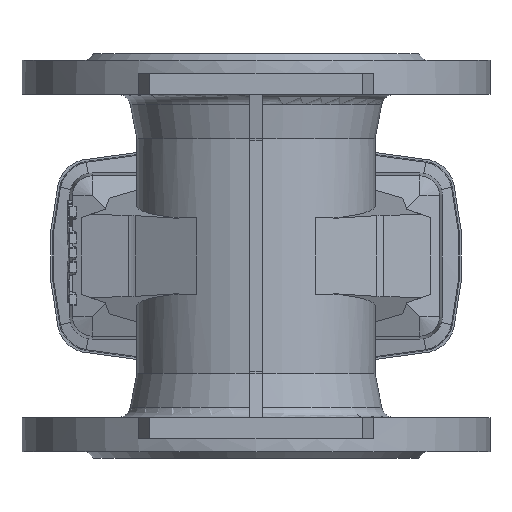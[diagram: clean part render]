
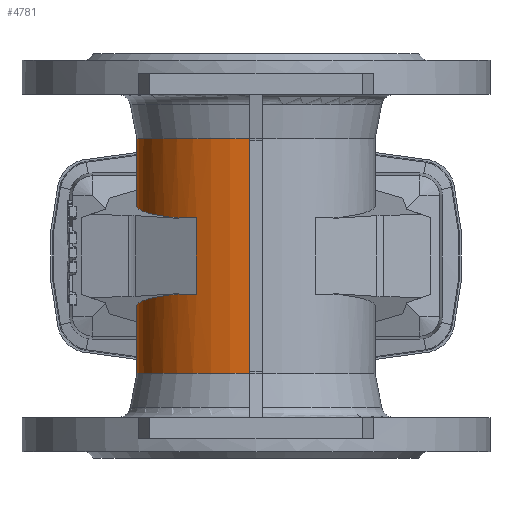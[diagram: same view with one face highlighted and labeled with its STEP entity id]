
A CAD part, front view. The second image highlights one B-rep face of the part: STEP entity #4781.
In plain terms, the highlighted cylindrical face has radius 56 mm (diameter 112 mm), a partial arc.
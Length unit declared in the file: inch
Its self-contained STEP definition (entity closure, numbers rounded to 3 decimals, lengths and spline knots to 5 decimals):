
#492 = CARTESIAN_POINT ( 'NONE',  ( -1.10236, -1.90935, 3.74016 ) ) ;
#493 = DIRECTION ( 'NONE',  ( 0., 0., -1. ) ) ;
#497 = CARTESIAN_POINT ( 'NONE',  ( -1.33426, -1.76057, -0.70506 ) ) ;
#501 = CARTESIAN_POINT ( 'NONE',  ( -1.43875, -1.67057, -0.70323 ) ) ;
#502 = CARTESIAN_POINT ( 'NONE',  ( -0.11811, 2.20156, -1.2707 ) ) ;
#503 = CARTESIAN_POINT ( 'NONE',  ( -2.45778, 2.07604, -1.21182 ) ) ;
#504 = CARTESIAN_POINT ( 'NONE',  ( -1.2218, -1.84039, -0.70702 ) ) ;
#505 = CARTESIAN_POINT ( 'NONE',  ( -1.10236, -1.90935, -0.7091 ) ) ;
#506 = CARTESIAN_POINT ( 'NONE',  ( -0.11811, -2.20156, 0. ) ) ;
#507 = CARTESIAN_POINT ( 'NONE',  ( -0.11811, 2.20156, 0. ) ) ;
#508 = DIRECTION ( 'NONE',  ( 0., 0., 1. ) ) ;
#509 = CARTESIAN_POINT ( 'NONE',  ( -3.21412, -0.14156, -0.88683 ) ) ;
#510 = CARTESIAN_POINT ( 'NONE',  ( -1.43875, -1.67057, -0.70323 ) ) ;
#511 = DIRECTION ( 'NONE',  ( 0., 0., -1. ) ) ;
#512 = DIRECTION ( 'NONE',  ( 0., 0., 1. ) ) ;
#513 = CARTESIAN_POINT ( 'NONE',  ( 0., 0., -2.17103 ) ) ;
#514 = DIRECTION ( 'NONE',  ( 0., 0., 1. ) ) ;
#515 = DIRECTION ( 'NONE',  ( 1., 0., 0. ) ) ;
#516 = CARTESIAN_POINT ( 'NONE',  ( -2.45778, 2.07604, 1.21182 ) ) ;
#517 = CARTESIAN_POINT ( 'NONE',  ( -0.11811, 2.20156, 0. ) ) ;
#518 = CARTESIAN_POINT ( 'NONE',  ( 0., 0., 2.17103 ) ) ;
#519 = DIRECTION ( 'NONE',  ( 0., 0., 1. ) ) ;
#520 = DIRECTION ( 'NONE',  ( 1., 0., 0. ) ) ;
#521 = CARTESIAN_POINT ( 'NONE',  ( -0.11811, 2.20156, 1.2707 ) ) ;
#522 = CARTESIAN_POINT ( 'NONE',  ( -1.43875, -1.67057, 0.70323 ) ) ;
#523 = CARTESIAN_POINT ( 'NONE',  ( -1.33426, -1.76057, 0.70506 ) ) ;
#524 = CARTESIAN_POINT ( 'NONE',  ( -3.21412, -0.14156, 0.88683 ) ) ;
#525 = CARTESIAN_POINT ( 'NONE',  ( -1.43875, -1.67057, 0.70323 ) ) ;
#528 = CARTESIAN_POINT ( 'NONE',  ( -1.2218, -1.84039, 0.70702 ) ) ;
#529 = CARTESIAN_POINT ( 'NONE',  ( -1.10236, -1.90935, 0.7091 ) ) ;
#577 = AXIS2_PLACEMENT_3D ( 'NONE', #513, #514, #515 ) ;
#578 = AXIS2_PLACEMENT_3D ( 'NONE', #518, #519, #520 ) ;
#1229 = VERTEX_POINT ( 'NONE', #3781 ) ;
#1230 = VERTEX_POINT ( 'NONE', #3777 ) ;
#1237 = VERTEX_POINT ( 'NONE', #3787 ) ;
#1238 = VERTEX_POINT ( 'NONE', #3788 ) ;
#1243 = VERTEX_POINT ( 'NONE', #3793 ) ;
#1251 = VERTEX_POINT ( 'NONE', #3801 ) ;
#1254 = VERTEX_POINT ( 'NONE', #3804 ) ;
#1274 = VERTEX_POINT ( 'NONE', #3824 ) ;
#1275 = VERTEX_POINT ( 'NONE', #3825 ) ;
#1280 = VERTEX_POINT ( 'NONE', #3830 ) ;
#2754 =( BOUNDED_CURVE ( )  B_SPLINE_CURVE ( 3, ( #501, #497, #504, #505 ),
 .UNSPECIFIED., .F., .T. ) 
 B_SPLINE_CURVE_WITH_KNOTS ( ( 4, 4 ),
 ( 4.00141, 4.18879 ),
 .UNSPECIFIED. ) 
 CURVE ( )  GEOMETRIC_REPRESENTATION_ITEM ( )  RATIONAL_B_SPLINE_CURVE ( ( 1., 0.997, 0.997, 1. ) ) 
 REPRESENTATION_ITEM ( '' )  );
#3614 = AXIS2_PLACEMENT_3D ( 'NONE', #6449, #6448, #6445 ) ;
#3777 = CARTESIAN_POINT ( 'NONE',  ( -1.43875, -1.67057, 0.70323 ) ) ;
#3781 = CARTESIAN_POINT ( 'NONE',  ( -0.11811, 2.20156, -1.2707 ) ) ;
#3787 = CARTESIAN_POINT ( 'NONE',  ( -0.11811, -2.20156, -2.17103 ) ) ;
#3788 = CARTESIAN_POINT ( 'NONE',  ( -1.43875, -1.67057, -0.70323 ) ) ;
#3793 = CARTESIAN_POINT ( 'NONE',  ( -0.11811, 2.20156, 2.17103 ) ) ;
#3801 = CARTESIAN_POINT ( 'NONE',  ( -0.11811, -2.20156, 2.17103 ) ) ;
#3804 = CARTESIAN_POINT ( 'NONE',  ( -0.11811, 2.20156, -2.17103 ) ) ;
#3824 = CARTESIAN_POINT ( 'NONE',  ( -1.10236, -1.90935, -0.7091 ) ) ;
#3825 = CARTESIAN_POINT ( 'NONE',  ( -1.10236, -1.90935, 0.7091 ) ) ;
#3830 = CARTESIAN_POINT ( 'NONE',  ( -0.11811, 2.20156, 1.2707 ) ) ;
#4781 = ADVANCED_FACE ( 'NONE', ( #11405 ), #11415, .T. ) ;
#5083 =( BOUNDED_CURVE ( )  B_SPLINE_CURVE ( 3, ( #521, #516, #524, #525 ),
 .UNSPECIFIED., .F., .F. ) 
 B_SPLINE_CURVE_WITH_KNOTS ( ( 4, 4 ),
 ( 0.17837, 2.55538 ),
 .UNSPECIFIED. ) 
 CURVE ( )  GEOMETRIC_REPRESENTATION_ITEM ( )  RATIONAL_B_SPLINE_CURVE ( ( 1., 0.582, 0.582, 1. ) ) 
 REPRESENTATION_ITEM ( '' )  );
#5087 =( BOUNDED_CURVE ( )  B_SPLINE_CURVE ( 3, ( #502, #503, #509, #510 ),
 .UNSPECIFIED., .F., .F. ) 
 B_SPLINE_CURVE_WITH_KNOTS ( ( 4, 4 ),
 ( 0.17837, 2.55538 ),
 .UNSPECIFIED. ) 
 CURVE ( )  GEOMETRIC_REPRESENTATION_ITEM ( )  RATIONAL_B_SPLINE_CURVE ( ( 1., 0.582, 0.582, 1. ) ) 
 REPRESENTATION_ITEM ( '' )  );
#5088 =( BOUNDED_CURVE ( )  B_SPLINE_CURVE ( 3, ( #522, #523, #528, #529 ),
 .UNSPECIFIED., .F., .F. ) 
 B_SPLINE_CURVE_WITH_KNOTS ( ( 4, 4 ),
 ( 4.00141, 4.18879 ),
 .UNSPECIFIED. ) 
 CURVE ( )  GEOMETRIC_REPRESENTATION_ITEM ( )  RATIONAL_B_SPLINE_CURVE ( ( 1., 0.997, 0.997, 1. ) ) 
 REPRESENTATION_ITEM ( '' )  );
#6445 = DIRECTION ( 'NONE',  ( 1., 0., 0. ) ) ;
#6448 = DIRECTION ( 'NONE',  ( 0., 0., 1. ) ) ;
#6449 = CARTESIAN_POINT ( 'NONE',  ( 0., 0., 0. ) ) ;
#6999 = LINE ( 'NONE', #492, #7001 ) ;
#7000 = LINE ( 'NONE', #507, #7004 ) ;
#7001 = VECTOR ( 'NONE', #493, 39.37008 ) ;
#7002 = LINE ( 'NONE', #517, #7009 ) ;
#7003 = CIRCLE ( 'NONE', #577, 2.20472 ) ;
#7004 = VECTOR ( 'NONE', #511, 39.37008 ) ;
#7005 = LINE ( 'NONE', #506, #7007 ) ;
#7006 = CIRCLE ( 'NONE', #578, 2.20472 ) ;
#7007 = VECTOR ( 'NONE', #508, 39.37008 ) ;
#7009 = VECTOR ( 'NONE', #512, 39.37008 ) ;
#9558 = ORIENTED_EDGE ( 'NONE', *, *, #9930, .F. ) ;
#9561 = ORIENTED_EDGE ( 'NONE', *, *, #9927, .T. ) ;
#9562 = ORIENTED_EDGE ( 'NONE', *, *, #9926, .F. ) ;
#9563 = ORIENTED_EDGE ( 'NONE', *, *, #9932, .T. ) ;
#9564 = ORIENTED_EDGE ( 'NONE', *, *, #9931, .F. ) ;
#9566 = ORIENTED_EDGE ( 'NONE', *, *, #9933, .T. ) ;
#9567 = ORIENTED_EDGE ( 'NONE', *, *, #9929, .T. ) ;
#9568 = ORIENTED_EDGE ( 'NONE', *, *, #9928, .T. ) ;
#9569 = ORIENTED_EDGE ( 'NONE', *, *, #9925, .F. ) ;
#9570 = ORIENTED_EDGE ( 'NONE', *, *, #9924, .T. ) ;
#9873 = EDGE_LOOP ( 'NONE', ( #9570, #9569, #9562, #9561, #9568, #9567, #9558, #9564, #9563, #9566 ) ) ;
#9924 = EDGE_CURVE ( 'NONE', #1275, #1274, #6999, .T. ) ;
#9925 = EDGE_CURVE ( 'NONE', #1238, #1274, #2754, .T. ) ;
#9926 = EDGE_CURVE ( 'NONE', #1229, #1238, #5087, .T. ) ;
#9927 = EDGE_CURVE ( 'NONE', #1229, #1254, #7000, .T. ) ;
#9928 = EDGE_CURVE ( 'NONE', #1254, #1237, #7003, .T. ) ;
#9929 = EDGE_CURVE ( 'NONE', #1237, #1251, #7005, .T. ) ;
#9930 = EDGE_CURVE ( 'NONE', #1243, #1251, #7006, .T. ) ;
#9931 = EDGE_CURVE ( 'NONE', #1280, #1243, #7002, .T. ) ;
#9932 = EDGE_CURVE ( 'NONE', #1280, #1230, #5083, .T. ) ;
#9933 = EDGE_CURVE ( 'NONE', #1230, #1275, #5088, .T. ) ;
#11405 = FACE_OUTER_BOUND ( 'NONE', #9873, .T. ) ;
#11415 = CYLINDRICAL_SURFACE ( 'NONE', #3614, 2.20472 ) ;
